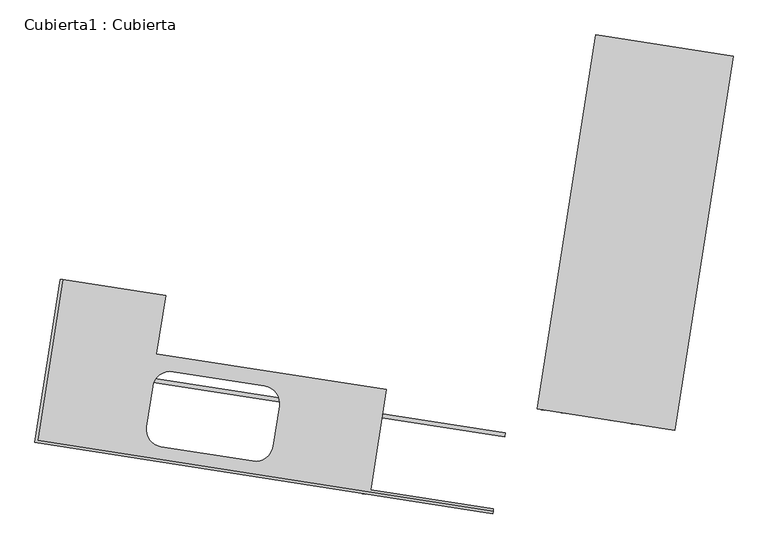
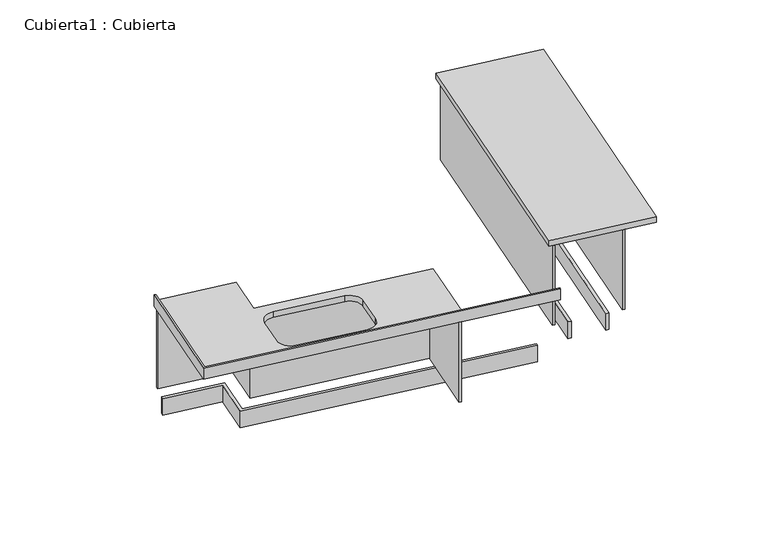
"""IFC4 building model written with IfcOpenShell, lengths in millimetres: furniture geometry, Cubierta1 : Cubierta."""

from ifc_helpers import new_model, si_unit, frame, origin, origin_with_axes, place, context, project, spatial, polyline, circle_curve, outline, extrude, faceted_brep, source, transform, mapped, element, save
from ifc_brep_helpers import plane_surface, revolved_surface, advanced_brep


def cubierta1_cubierta_184361cb(model_context):
    return source(origin(), model_context, "Body", "SolidModel", [
        extrude(outline(polyline([(-31864.2729725, -77252.8677731), (-31530.841585, -75113.6977298), (-31209.7190536, -75163.7509416), (-31543.1504408, -77302.9209849), (-31567.8521735, -77299.0707379), (-31238.2710333, -75184.6024273), (-31509.9900992, -75142.2497095), (-31839.5712398, -77256.7180201), (-31864.2729725, -77252.8677731)])), origin_with_axes(), (0.0, 0.0, 1.0), 150.0),
        extrude(outline(polyline([(-31968.0202495, -77236.6967358), (-31987.7816357, -77233.6165382), (-31635.0990135, -74970.9378314), (-31066.9591552, -75059.493513), (-31419.6417776, -77322.1722197), (-31439.4031638, -77319.0920222), (-31089.8007389, -75076.1747016), (-31618.417825, -74993.7794151), (-31968.0202495, -77236.6967358)])), frame((0.0, 0.0, 150.0), z_axis=(0.0, 0.0, 1.0), x_axis=(1.0, 0.0, 0.0)), (0.0, 0.0, 1.0), 720.0),
        extrude(outline(polyline([(-34948.1994582, -76584.9438476), (-34454.1648043, -76661.9487873), (-34509.6083555, -77017.653704), (-32207.4068797, -77376.496721), (-32211.2571267, -77401.1984537), (-34538.1603352, -77038.5051897), (-34482.716784, -76682.800273), (-34952.0497052, -76609.6455803), (-34948.1994582, -76584.9438476)])), origin_with_axes(), (0.0, 0.0, 1.0), 150.0),
        extrude(outline(polyline([(-34311.4049059, -76557.6913587), (-34366.8484571, -76913.3962755), (-32963.7900514, -77132.0903023), (-33060.046226, -77749.6336197), (-33079.8076121, -77746.5534221), (-32986.6316352, -77148.7714908), (-34389.6900409, -76930.077464), (-34334.2464896, -76574.3725473), (-34922.1477278, -76482.7366691), (-34919.0675302, -76462.975283), (-34311.4049059, -76557.6913587)])), frame((0.0, 0.0, 150.0), z_axis=(0.0, 0.0, 1.0), x_axis=(1.0, 0.0, 0.0)), (0.0, 0.0, 1.0), 720.0),
        faceted_brep([(-30816.0915812, -75073.2942501, 920.0), (-31655.9504992, -74942.3858517, 920.0), (-32012.4833685, -77229.7662912, 920.0), (-31172.6244505, -77360.6746896, 920.0), (-30816.0915812, -75073.2942501, 870.0), (-31172.6244505, -77360.6746896, 870.0), (-32012.4833685, -77229.7662912, 870.0), (-31655.9504992, -74942.3858517, 870.0)], [[[0, 1, 2, 3]], [[4, 5, 6, 7]], [[1, 0, 4, 7]], [[3, 2, 6, 5]], [[0, 3, 5, 4]], [[2, 1, 7, 6]]]),
        advanced_brep(
        [(-32279.7915229, -77840.8892957, 920.0), (-33030.7241969, -77723.8417874, 920.0), (-32935.2380717, -77111.2388165, 920.0), (-34338.2964775, -76892.5447897, 920.0), (-34282.8529262, -76536.839873, 920.0), (-34910.2769367, -76439.0435996, 920.0), (-35063.5167613, -77422.1725269, 920.0), (-32282.1016711, -77855.7103353, 920.0), (-33589.5117694, -77211.6724461, 920.0), (-33628.0142393, -77458.689773, 920.0), (-33750.2167123, -77547.9341319, 920.0), (-34308.4758712, -77460.9185501, 920.0), (-34397.7202301, -77338.7160771, 920.0), (-34359.2177602, -77091.6987501, 920.0), (-34237.0152872, -77002.4543912, 920.0), (-33678.7561283, -77089.469973, 920.0), (-32284.4118193, -77870.531375, 870.0), (-35080.6479491, -77434.6834184, 870.0), (-34925.0979763, -76436.7334514, 870.0), (-34282.8529262, -76536.839873, 870.0), (-34338.2964775, -76892.5447897, 870.0), (-32935.2380717, -77111.2388165, 870.0), (-33030.7241969, -77723.8417874, 870.0), (-32279.7915229, -77840.8892957, 870.0), (-33589.5117694, -77211.6724461, 870.0), (-33678.7561283, -77089.469973, 870.0), (-34237.0152872, -77002.4543912, 870.0), (-34359.2177602, -77091.6987501, 870.0), (-34397.7202301, -77338.7160771, 870.0), (-34308.4758712, -77460.9185501, 870.0), (-33750.2167123, -77547.9341319, 870.0), (-33628.0142393, -77458.689773, 870.0), (-34925.0979763, -76436.7334514, 970.0), (-34910.2769367, -76439.0435996, 970.0), (-35063.5167613, -77422.1725269, 970.0), (-32282.1016711, -77855.7103353, 970.0), (-32284.4118193, -77870.5313749, 970.0), (-35080.6479491, -77434.6834183, 970.0)],
        [
            (0, 1),
            (1, 2),
            (2, 3),
            (3, 4),
            (4, 5),
            (5, 6),
            (6, 7),
            (7, 0),
            (8, 9),
            (9, 10, circle_curve(frame((-33733.7376552, -77442.2107159, 920.0), z_axis=(0.0, 0.0, -1.0), x_axis=(-0.9880693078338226, 0.1540098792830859, 0.0)), 107.0)),
            (10, 11),
            (11, 12, circle_curve(frame((-34291.9968141, -77355.1951341, 920.0), z_axis=(0.0, 0.0, -1.0), x_axis=(-0.9880693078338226, 0.1540098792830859, 0.0)), 107.0)),
            (12, 13),
            (13, 14, circle_curve(frame((-34253.4943443, -77108.1778072, 920.0), z_axis=(0.0, 0.0, -1.0), x_axis=(-0.9880693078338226, 0.1540098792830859, 0.0)), 107.0)),
            (14, 15),
            (15, 8, circle_curve(frame((-33695.2351854, -77195.193389, 920.0), z_axis=(0.0, 0.0, -1.0), x_axis=(-0.9880693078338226, 0.1540098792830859, 0.0)), 107.0)),
            (16, 17),
            (17, 18),
            (18, 19),
            (19, 20),
            (20, 21),
            (21, 22),
            (22, 23),
            (23, 16),
            (24, 25, circle_curve(frame((-33695.2351854, -77195.193389, 870.0), z_axis=(0.0, 0.0, 1.0), x_axis=(-0.9880693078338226, 0.1540098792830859, 0.0)), 107.0)),
            (25, 26),
            (26, 27, circle_curve(frame((-34253.4943443, -77108.1778072, 870.0), z_axis=(0.0, 0.0, 1.0), x_axis=(-0.9880693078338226, 0.1540098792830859, 0.0)), 107.0)),
            (27, 28),
            (28, 29, circle_curve(frame((-34291.9968141, -77355.1951341, 870.0), z_axis=(0.0, 0.0, 1.0), x_axis=(-0.9880693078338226, 0.1540098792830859, 0.0)), 107.0)),
            (29, 30),
            (30, 31, circle_curve(frame((-33733.7376552, -77442.2107159, 870.0), z_axis=(0.0, 0.0, 1.0), x_axis=(-0.9880693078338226, 0.1540098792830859, 0.0)), 107.0)),
            (31, 24),
            (32, 33),
            (33, 5),
            (4, 19),
            (18, 32),
            (6, 34),
            (34, 35),
            (35, 7),
            (16, 36),
            (36, 37),
            (37, 17),
            (35, 36),
            (23, 0),
            (2, 21),
            (20, 3),
            (8, 24),
            (31, 9),
            (30, 10),
            (29, 11),
            (28, 12),
            (27, 13),
            (26, 14),
            (25, 15),
            (22, 1),
            (32, 37),
            (34, 33),
        ],
        [
            plane_surface(frame((-32774.5630132, -74768.0282668, 920.0), z_axis=(0.0, 0.0, 1.0), x_axis=(-0.9880693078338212, 0.15400987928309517, 0.0))),
            plane_surface(frame((-32774.5630132, -74768.0282668, 870.0), z_axis=(0.0, 0.0, -1.0), x_axis=(0.9880693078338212, -0.15400987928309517, 0.0))),
            plane_surface(frame((-34925.0979763, -76436.7334514, 20.0), z_axis=(0.15400987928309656, 0.9880693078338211, 0.0), x_axis=(0.0, 0.0, 1.0))),
            plane_surface(frame((-35063.5167613, -77422.1725269, 970.0), z_axis=(0.15400987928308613, 0.9880693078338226, 0.0), x_axis=(0.9880693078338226, -0.15400987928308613, 0.0))),
            plane_surface(frame((-35080.6479491, -77434.6834183, 920.0), z_axis=(-0.1540098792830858, -0.9880693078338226, 0.0), x_axis=(0.9880693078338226, -0.1540098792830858, 0.0))),
            plane_surface(frame((-32284.4118193, -77870.5313749, 20.0), z_axis=(0.9880693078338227, -0.15400987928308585, 0.0), x_axis=(0.0, 0.0, 1.0))),
            plane_surface(frame((-32935.2380717, -77111.2388165, 920.0), z_axis=(0.1540098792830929, 0.9880693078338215, 0.0), x_axis=(0.0, 0.0, -1.0))),
            plane_surface(frame((-33589.5117694, -77211.6724461, 920.0), z_axis=(-0.9880693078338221, 0.1540098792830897, 0.0), x_axis=(0.0, 0.0, -1.0))),
            revolved_surface(polyline([(-33839.46107113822, -77425.73165881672, 870.0), (-33839.46107113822, -77425.73165881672, 920.0)]), (-33733.7376552, -77442.2107159, 20.0), (0.0, 0.0, -1.0)),
            plane_surface(frame((-33750.2167123, -77547.9341319, 920.0), z_axis=(0.15400987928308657, 0.9880693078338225, 0.0), x_axis=(0.0, 0.0, -1.0))),
            revolved_surface(polyline([(-34397.72023003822, -77338.71607701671, 870.0), (-34397.72023003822, -77338.71607701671, 920.0)]), (-34291.9968141, -77355.1951341, 20.0), (0.0, 0.0, -1.0)),
            plane_surface(frame((-34397.7202301, -77338.7160771, 920.0), z_axis=(0.9880693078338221, -0.1540098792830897, 0.0), x_axis=(0.0, 0.0, -1.0))),
            revolved_surface(polyline([(-34359.21776023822, -77091.69875011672, 870.0), (-34359.21776023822, -77091.69875011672, 920.0)]), (-34253.4943443, -77108.1778072, 20.0), (0.0, 0.0, -1.0)),
            plane_surface(frame((-34237.0152872, -77002.4543912, 920.0), z_axis=(-0.15400987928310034, -0.9880693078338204, 0.0), x_axis=(0.0, 0.0, -1.0))),
            revolved_surface(polyline([(-33800.95860133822, -77178.71433191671, 870.0), (-33800.95860133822, -77178.71433191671, 920.0)]), (-33695.2351854, -77195.193389, 20.0), (0.0, 0.0, -1.0)),
            plane_surface(frame((-34338.2964775, -76892.5447897, 920.0), z_axis=(0.9880693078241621, -0.15400987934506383, 0.0), x_axis=(0.0, 0.0, -1.0))),
            plane_surface(frame((-32279.7915229, -77840.8892957, 920.0), z_axis=(0.1540098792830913, 0.9880693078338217, 0.0), x_axis=(0.0, 0.0, -1.0))),
            plane_surface(frame((-33030.7241969, -77723.8417874, 920.0), z_axis=(0.9880693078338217, -0.1540098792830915, 0.0), x_axis=(0.0, 0.0, -1.0))),
            plane_surface(frame((-34925.0979763, -76436.7334514, 970.0), z_axis=(0.0, 0.0, 1.0), x_axis=(-0.154009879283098, -0.9880693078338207, 0.0))),
            plane_surface(frame((-34910.2769367, -76439.0435996, 970.0), z_axis=(0.9880693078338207, -0.15400987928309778, 0.0), x_axis=(-0.15400987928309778, -0.9880693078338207, 0.0))),
            plane_surface(frame((-34925.0979763, -76436.7334514, 920.0), z_axis=(-0.9880693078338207, 0.154009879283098, 0.0), x_axis=(-0.154009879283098, -0.9880693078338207, 0.0))),
        ],
        [
            (0, [[1, 2, 3, 4, 5, 6, 7, 8], [9, 10, 11, 12, 13, 14, 15, 16]]),
            (1, [[17, 18, 19, 20, 21, 22, 23, 24], [25, 26, 27, 28, 29, 30, 31, 32]]),
            (2, [[33, 34, -5, 35, -19, 36]]),
            (3, [[37, 38, 39, -7]]),
            (4, [[-17, 40, 41, 42]]),
            (5, [[-39, 43, -40, -24, 44, -8]]),
            (6, [[-3, 45, -21, 46]]),
            (7, [[-9, 47, -32, 48]]),
            (8, [[-10, -48, -31, 49]]),
            (9, [[-11, -49, -30, 50]]),
            (10, [[-12, -50, -29, 51]]),
            (11, [[-13, -51, -28, 52]]),
            (12, [[-14, -52, -27, 53]]),
            (13, [[-15, -53, -26, 54]]),
            (14, [[-16, -54, -25, -47]]),
            (15, [[-4, -46, -20, -35]]),
            (16, [[-1, -44, -23, 55]]),
            (17, [[-2, -55, -22, -45]]),
            (18, [[-33, 56, -41, -43, -38, 57]]),
            (19, [[-34, -57, -37, -6]]),
            (20, [[-36, -18, -42, -56]]),
        ],
    ),
    ])


if __name__ == "__main__":
    model = new_model("IFC4")
    model_context = context("Model", 3, world=origin())
    ifc_project = project(units=[si_unit("LENGTHUNIT", "METRE", prefix="MILLI")], contexts=[model_context])
    site = spatial("IfcSite", under=ifc_project)
    building = spatial("IfcBuilding", under=site)
    placement = place(None, origin())
    cubierta1_cubierta_shape = cubierta1_cubierta_184361cb(model_context)
    element("IfcFurniture", 1, ObjectType="Cubierta1 : Cubierta", at=placement, inside=building, context=model_context, shape_type="MappedRepresentation", body=[
        mapped(cubierta1_cubierta_shape, transform((0.0, 0.0, 0.0), x_axis=(1.0, 0.0, 0.0), y_axis=(0.0, 1.0, 0.0), z_axis=(0.0, 0.0, 1.0))),
    ])
    save(model, "model.ifc")
